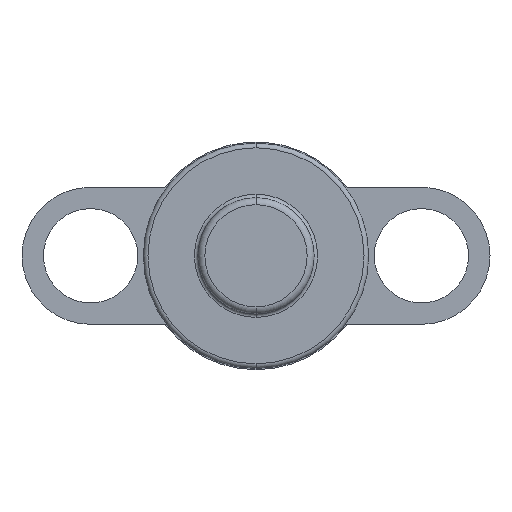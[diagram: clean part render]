
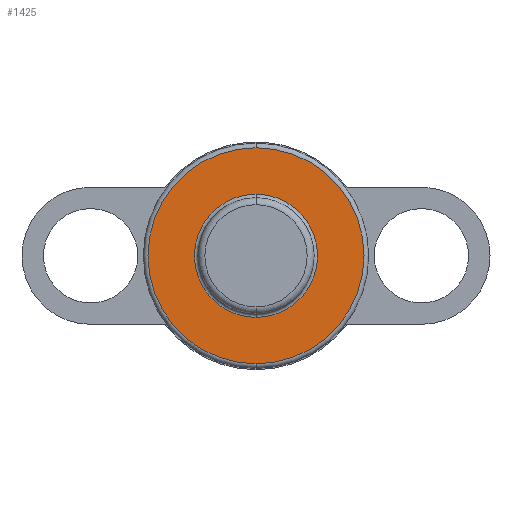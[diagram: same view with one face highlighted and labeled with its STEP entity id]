
A CAD part, front view. The second image highlights one B-rep face of the part: STEP entity #1425.
In plain terms, the highlighted planar face has unit normal (0, -1, 0).
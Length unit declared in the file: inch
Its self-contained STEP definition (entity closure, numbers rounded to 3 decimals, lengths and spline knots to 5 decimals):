
#38 = ORIENTED_EDGE ( 'NONE', *, *, #106, .T. ) ;
#73 = AXIS2_PLACEMENT_3D ( 'NONE', #494, #995, #629 ) ;
#100 = FACE_BOUND ( 'NONE', #1416, .T. ) ;
#106 = EDGE_CURVE ( 'NONE', #345, #1529, #1305, .T. ) ;
#113 = CIRCLE ( 'NONE', #1242, 0.265 ) ;
#117 = EDGE_CURVE ( 'NONE', #1529, #345, #1126, .T. ) ;
#180 = EDGE_LOOP ( 'NONE', ( #38, #562 ) ) ;
#197 = DIRECTION ( 'NONE',  ( 0., 1., 0. ) ) ;
#266 = VERTEX_POINT ( 'NONE', #909 ) ;
#279 = CARTESIAN_POINT ( 'NONE',  ( 0., 0., 0. ) ) ;
#319 = DIRECTION ( 'NONE',  ( 0., 0., 1. ) ) ;
#326 = FACE_OUTER_BOUND ( 'NONE', #180, .T. ) ;
#345 = VERTEX_POINT ( 'NONE', #899 ) ;
#399 = DIRECTION ( 'NONE',  ( 0., -1., 0. ) ) ;
#421 = AXIS2_PLACEMENT_3D ( 'NONE', #844, #981, #1193 ) ;
#494 = CARTESIAN_POINT ( 'NONE',  ( 0., 0., 0. ) ) ;
#540 = VERTEX_POINT ( 'NONE', #593 ) ;
#562 = ORIENTED_EDGE ( 'NONE', *, *, #117, .T. ) ;
#568 = PLANE ( 'NONE',  #421 ) ;
#593 = CARTESIAN_POINT ( 'NONE',  ( 0., 0., -0.265 ) ) ;
#625 = ORIENTED_EDGE ( 'NONE', *, *, #841, .T. ) ;
#629 = DIRECTION ( 'NONE',  ( 0., 0., 1. ) ) ;
#671 = ORIENTED_EDGE ( 'NONE', *, *, #1096, .T. ) ;
#759 = DIRECTION ( 'NONE',  ( 0., 0., 1. ) ) ;
#841 = EDGE_CURVE ( 'NONE', #540, #266, #865, .T. ) ;
#844 = CARTESIAN_POINT ( 'NONE',  ( -0.485, 0., 0. ) ) ;
#861 = AXIS2_PLACEMENT_3D ( 'NONE', #1337, #399, #759 ) ;
#865 = CIRCLE ( 'NONE', #73, 0.265 ) ;
#899 = CARTESIAN_POINT ( 'NONE',  ( 0., 0., 0.465 ) ) ;
#909 = CARTESIAN_POINT ( 'NONE',  ( 0., 0., 0.265 ) ) ;
#981 = DIRECTION ( 'NONE',  ( 0., 1., 0. ) ) ;
#995 = DIRECTION ( 'NONE',  ( 0., 1., 0. ) ) ;
#1002 = DIRECTION ( 'NONE',  ( 0., 0., 1. ) ) ;
#1069 = AXIS2_PLACEMENT_3D ( 'NONE', #279, #1346, #1002 ) ;
#1096 = EDGE_CURVE ( 'NONE', #266, #540, #113, .T. ) ;
#1126 = CIRCLE ( 'NONE', #1069, 0.465 ) ;
#1130 = CARTESIAN_POINT ( 'NONE',  ( 0., 0., -0.465 ) ) ;
#1193 = DIRECTION ( 'NONE',  ( 0., 0., 1. ) ) ;
#1242 = AXIS2_PLACEMENT_3D ( 'NONE', #1272, #197, #319 ) ;
#1272 = CARTESIAN_POINT ( 'NONE',  ( 0., 0., 0. ) ) ;
#1305 = CIRCLE ( 'NONE', #861, 0.465 ) ;
#1337 = CARTESIAN_POINT ( 'NONE',  ( 0., 0., 0. ) ) ;
#1346 = DIRECTION ( 'NONE',  ( 0., -1., 0. ) ) ;
#1416 = EDGE_LOOP ( 'NONE', ( #671, #625 ) ) ;
#1425 = ADVANCED_FACE ( 'NONE', ( #100, #326 ), #568, .F. ) ;
#1529 = VERTEX_POINT ( 'NONE', #1130 ) ;
